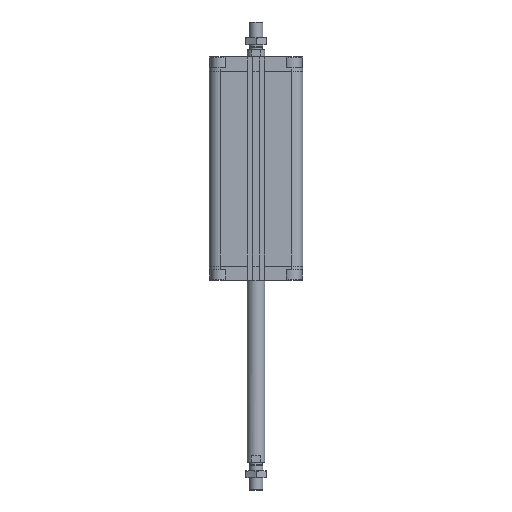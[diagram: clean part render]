
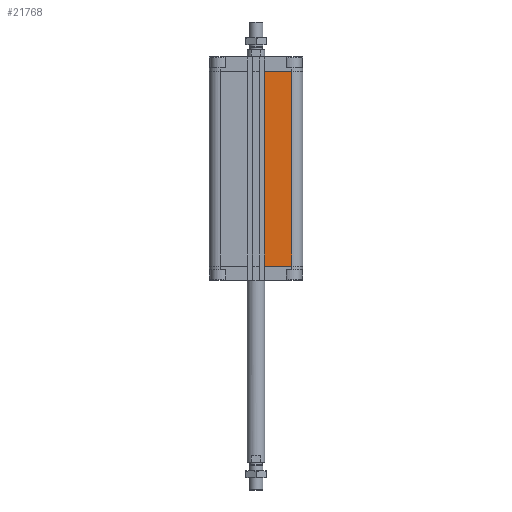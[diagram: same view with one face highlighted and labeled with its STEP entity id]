
A CAD part, front view. The second image highlights one B-rep face of the part: STEP entity #21768.
In plain terms, the highlighted planar face has unit normal (0, -1, 0).
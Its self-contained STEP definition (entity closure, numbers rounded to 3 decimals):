
#1015 = DIRECTION ( 'NONE',  ( 0., 0., 1. ) ) ;
#1377 = ORIENTED_EDGE ( 'NONE', *, *, #2799, .F. ) ;
#1661 = LINE ( 'NONE', #9093, #1739 ) ;
#1739 = VECTOR ( 'NONE', #3635, 1000. ) ;
#1948 = CARTESIAN_POINT ( 'NONE',  ( 9.95, -53.5, -239.5 ) ) ;
#2799 = EDGE_CURVE ( 'NONE', #9963, #17889, #13270, .T. ) ;
#2824 = VERTEX_POINT ( 'NONE', #18821 ) ;
#3635 = DIRECTION ( 'NONE',  ( 1., 0., 0. ) ) ;
#3940 = CARTESIAN_POINT ( 'NONE',  ( 9.95, -53.5, -239.5 ) ) ;
#4385 = LINE ( 'NONE', #9837, #21782 ) ;
#4513 = CARTESIAN_POINT ( 'NONE',  ( 41., -53.5, -239.5 ) ) ;
#6162 = VECTOR ( 'NONE', #20342, 1000. ) ;
#6271 = AXIS2_PLACEMENT_3D ( 'NONE', #3940, #12760, #7314 ) ;
#7178 = LINE ( 'NONE', #1948, #9012 ) ;
#7314 = DIRECTION ( 'NONE',  ( -1., 0., 0. ) ) ;
#7537 = FACE_OUTER_BOUND ( 'NONE', #15373, .T. ) ;
#8070 = EDGE_CURVE ( 'NONE', #17889, #2824, #1661, .T. ) ;
#9012 = VECTOR ( 'NONE', #17839, 1000. ) ;
#9093 = CARTESIAN_POINT ( 'NONE',  ( 9.95, -53.5, -16.5 ) ) ;
#9837 = CARTESIAN_POINT ( 'NONE',  ( 41., -53.5, -239.5 ) ) ;
#9963 = VERTEX_POINT ( 'NONE', #10440 ) ;
#10440 = CARTESIAN_POINT ( 'NONE',  ( 9.95, -53.5, -239.5 ) ) ;
#12760 = DIRECTION ( 'NONE',  ( 0., -1., 0. ) ) ;
#13005 = VERTEX_POINT ( 'NONE', #4513 ) ;
#13270 = LINE ( 'NONE', #16853, #6162 ) ;
#13354 = EDGE_CURVE ( 'NONE', #13005, #2824, #4385, .T. ) ;
#15058 = CARTESIAN_POINT ( 'NONE',  ( 9.95, -53.5, -16.5 ) ) ;
#15373 = EDGE_LOOP ( 'NONE', ( #16009, #1377, #18688, #22406 ) ) ;
#16009 = ORIENTED_EDGE ( 'NONE', *, *, #8070, .F. ) ;
#16853 = CARTESIAN_POINT ( 'NONE',  ( 9.95, -53.5, -239.5 ) ) ;
#17327 = EDGE_CURVE ( 'NONE', #9963, #13005, #7178, .T. ) ;
#17839 = DIRECTION ( 'NONE',  ( 1., 0., 0. ) ) ;
#17889 = VERTEX_POINT ( 'NONE', #15058 ) ;
#18688 = ORIENTED_EDGE ( 'NONE', *, *, #17327, .T. ) ;
#18821 = CARTESIAN_POINT ( 'NONE',  ( 41., -53.5, -16.5 ) ) ;
#20342 = DIRECTION ( 'NONE',  ( 0., 0., 1. ) ) ;
#21768 = ADVANCED_FACE ( 'NONE', ( #7537 ), #21796, .T. ) ;
#21782 = VECTOR ( 'NONE', #1015, 1000. ) ;
#21796 = PLANE ( 'NONE',  #6271 ) ;
#22406 = ORIENTED_EDGE ( 'NONE', *, *, #13354, .T. ) ;
